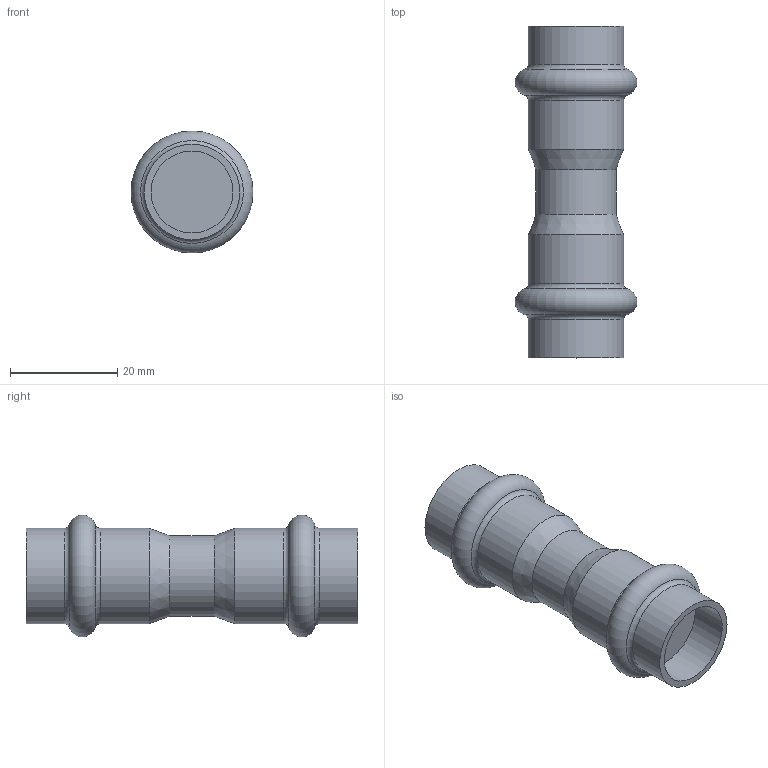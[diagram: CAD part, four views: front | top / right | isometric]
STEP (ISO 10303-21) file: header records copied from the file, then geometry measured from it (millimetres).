
FILE_DESCRIPTION(('STEP AP203'), '1');
FILE_NAME('VTi.903.I.001515', '', ('UNSPECIFIED'), ('UNSPECIFIED'), 'C3D Converter', 'C3D Toolkit', '');
FILE_SCHEMA(('CONFIG_CONTROL_DESIGN'));
Length unit declared in the file: millimetre
Bounding box: 22.79 x 62 x 22.79 mm (x, y, z)
Volume: 13175 mm3; surface area: 4981.5 mm2
Topology: 1 solids, 1 shells, 19 faces, 33 edges, 18 vertices
Faces by surface type: cylinder 7, torus 6, plane 4, cone 2
Full cylindrical faces by diameter (mm): 15 x1, 15.3 x2, 17.8 x4
Entity records: 414 total; most frequent: DIRECTION 76, CARTESIAN_POINT 56, AXIS2_PLACEMENT_3D 38, EDGE_LOOP 36, ORIENTED_EDGE 36, FACE_OUTER_BOUND 30, ADVANCED_FACE 19, EDGE_CURVE 18
